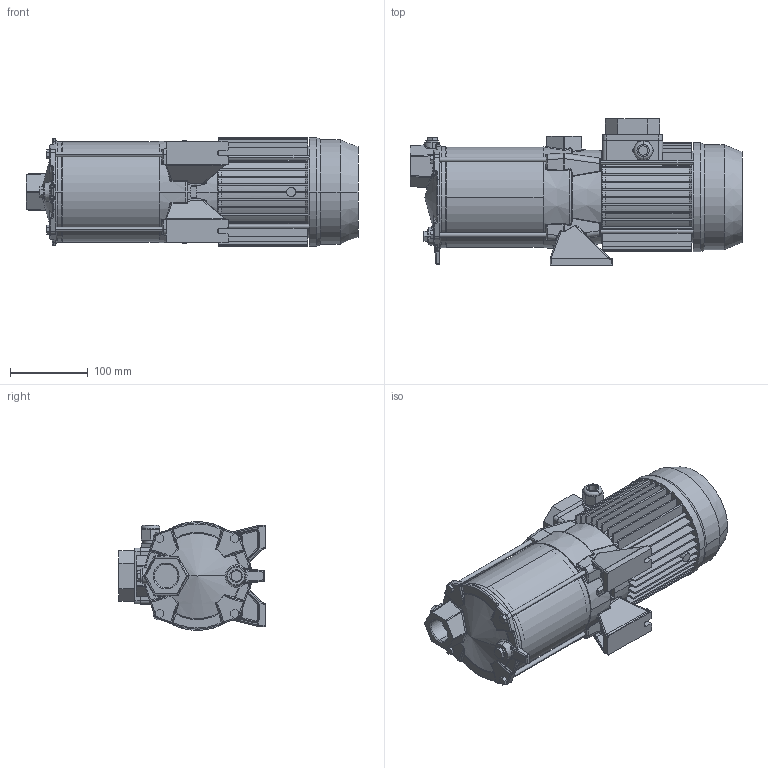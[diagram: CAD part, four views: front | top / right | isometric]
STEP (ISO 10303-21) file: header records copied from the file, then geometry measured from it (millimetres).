
FILE_DESCRIPTION((''),'2;1');
FILE_NAME('COMPACT_L_A_10_ASM','2019-10-04T',('rosa'),('"Ebara Pumps Europe +39.444.706811"'),'PRO/ENGINEER BY PARAMETRIC TECHNOLOGY CORPORATION, 2017170','PRO/ENGINEER BY PARAMETRIC TECHNOLOGY CORPORATION, 2017170','');
FILE_SCHEMA(('AUTOMOTIVE_DESIGN { 1 0 10303 214 1 1 1 1 }'));
Length unit declared in the file: millimetre
Products named in the file (6): MEC_71X90_IE2; 80585; 2710X_L-124_8; 20998; 40012_M6X160; COMPACT_L_A_10_ASM
Assembly tree (8 placements, depth 2):
  COMPACT_L_A_10_ASM
    MEC_71X90_IE2
    80585
    2710X_L-124_8
    20998
    40012_M6X160  x4
Bounding box: 427.3 x 188.5 x 140.4 mm (x, y, z)
Volume: 2802540.6 mm3; surface area: 520035.8 mm2
Topology: 8 solids, 8 shells, 1262 faces, 2989 edges, 1766 vertices
Faces by surface type: plane 418, cylinder 329, bspline 324, cone 88, torus 66, sphere 37
Entity records: 60565 total; most frequent: CARTESIAN_POINT 24371, ORIENTED_EDGE 5830, DIRECTION 4972, PRESENTATION_STYLE_ASSIGNMENT 2920, STYLED_ITEM 2920, CURVE_STYLE 2915, EDGE_CURVE 2915, AXIS2_PLACEMENT_3D 1949
